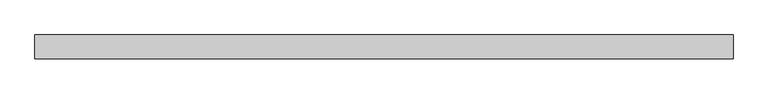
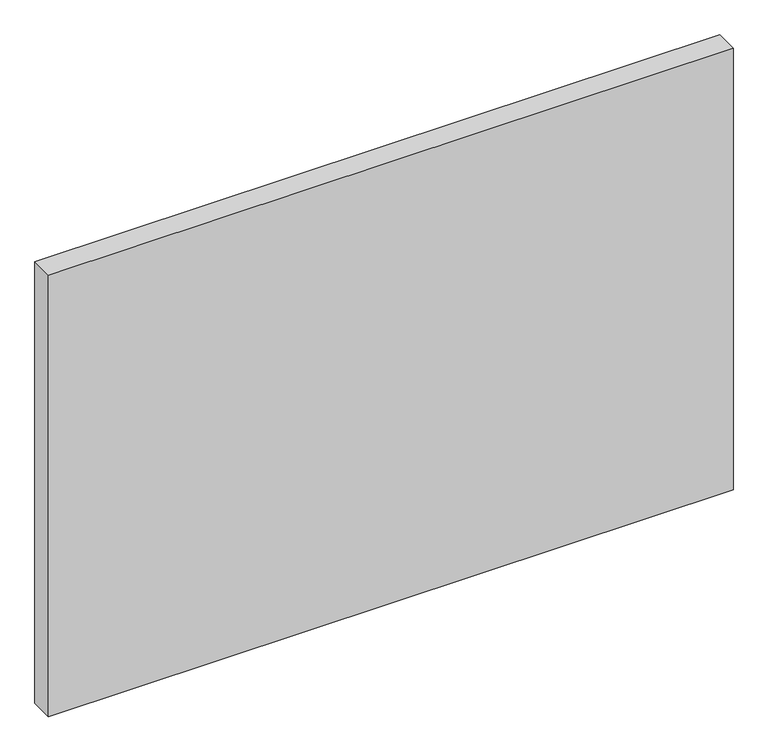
"""IFC4 building model written with IfcOpenShell, lengths in millimetres: plate geometry, Vitré."""

import ifcopenshell
import ifcopenshell.guid

model = None  # the IFC model being written
_history = None  # IfcOwnerHistory: only IFC2X3 demands one
_inside = {}  # id of a spatial element -> (the spatial element, [elements in it])
_under = {}  # id of a project, library or spatial element -> (it, [spatial elements below it])
_declared = {}  # id of a project -> (the project, [libraries it declares])
_typed = {}  # id of a type object -> (the type object, [elements of that type])
_made_of = {}  # id of a material, layer set ... -> (it, [elements and type objects made of it])


def new_model(schema):
    """Start an empty IFC model of exactly this schema.

    Asked for "IFC4X3", IfcOpenShell would pick the latest addendum, in which some entities
    have other attributes; the version numbers below select the first issue.
    IFC2X3 requires an IfcOwnerHistory on every rooted entity: one is made here for all.
    """
    global model, _history
    if schema == "IFC4X3":
        model = ifcopenshell.file(schema_version=(4, 3, 0, 0))
    else:
        model = ifcopenshell.file(schema=schema)
    _inside.clear()
    _under.clear()
    _declared.clear()
    _typed.clear()
    _made_of.clear()
    _history = None
    if model.schema == "IFC2X3":
        org = make("IfcOrganization", Name="unknown")
        user = make(
            "IfcPersonAndOrganization",
            ThePerson=make("IfcPerson", FamilyName="unknown"),
            TheOrganization=org,
        )
        app = make(
            "IfcApplication",
            ApplicationDeveloper=org,
            Version="unknown",
            ApplicationFullName="unknown",
            ApplicationIdentifier="unknown",
        )
        _history = make(
            "IfcOwnerHistory",
            OwningUser=user,
            OwningApplication=app,
            ChangeAction="ADDED",
            CreationDate=0,
        )
    return model


def make(cls, **values):
    """One entity of the class cls with the attributes given. An attribute that is None is left unset."""
    return model.create_entity(
        cls, **{name: value for name, value in values.items() if value is not None}
    )


def rooted(cls, **values):
    """An entity with a GlobalId (a new one), such as an element, a storey or a relation."""
    return make(cls, GlobalId=ifcopenshell.guid.new(), OwnerHistory=_history, **values)


def si_unit(unit_type, name, prefix=None):
    """IfcSIUnit, for example si_unit("LENGTHUNIT", "METRE", prefix="MILLI")."""
    return make("IfcSIUnit", UnitType=unit_type, Prefix=prefix, Name=name)


def assignment(units):
    """IfcUnitAssignment: the units of a project."""
    return None if units is None else make("IfcUnitAssignment", Units=units)


def point(xyz):
    """IfcCartesianPoint."""
    return None if xyz is None else make("IfcCartesianPoint", Coordinates=xyz)


def direction(xyz):
    """IfcDirection."""
    return None if xyz is None else make("IfcDirection", DirectionRatios=xyz)


def frame(location, z_axis=None, x_axis=None):
    """IfcAxis2Placement3D, a coordinate frame: its origin and axes. An axis left out is left unset."""
    return make(
        "IfcAxis2Placement3D",
        Location=point(location),
        Axis=direction(z_axis),
        RefDirection=direction(x_axis),
    )


def origin():
    """The frame at (0, 0, 0) with its axes left unset."""
    return frame((0.0, 0.0, 0.0))


def origin_with_axes():
    """The frame at (0, 0, 0) with the z axis (0, 0, 1) and the x axis (1, 0, 0) written out."""
    return frame((0.0, 0.0, 0.0), z_axis=(0.0, 0.0, 1.0), x_axis=(1.0, 0.0, 0.0))


def place(relative_to, where):
    """IfcLocalPlacement: puts the frame where relative to a parent placement (None: the world)."""
    return make(
        "IfcLocalPlacement", PlacementRelTo=relative_to, RelativePlacement=where
    )


def context(
    kind, dimensions, precision=None, world=None, true_north=None, identifier=None
):
    """IfcGeometricRepresentationContext, for example the 3D "Model" context."""
    return make(
        "IfcGeometricRepresentationContext",
        ContextIdentifier=identifier,
        ContextType=kind,
        CoordinateSpaceDimension=dimensions,
        Precision=precision,
        WorldCoordinateSystem=world,
        TrueNorth=true_north,
    )


def project(units=None, contexts=None):
    """IfcProject with its units and contexts."""
    return rooted(
        "IfcProject",
        Name="project",
        RepresentationContexts=contexts,
        UnitsInContext=assignment(units),
    )


def spatial(cls, under=None, at=None, **own):
    """A site, building, storey or space (cls), placed at a placement, below another one or the project."""
    s = rooted(cls, ObjectPlacement=at, **own)
    if under is not None:
        _under.setdefault(under.id(), (under, []))[1].append(s)
    return s


def polyline(points):
    """IfcPolyline through the points."""
    return make("IfcPolyline", Points=[point(p) for p in points])


def outline(outer, holes=None, kind="AREA"):
    """IfcArbitraryClosedProfileDef: a profile drawn as a closed curve; with holes, ...WithVoids."""
    if holes is None:
        return make("IfcArbitraryClosedProfileDef", ProfileType=kind, OuterCurve=outer)
    return make(
        "IfcArbitraryProfileDefWithVoids",
        ProfileType=kind,
        OuterCurve=outer,
        InnerCurves=holes,
    )


def extrude(swept, where, along, depth):
    """IfcExtrudedAreaSolid: the profile swept, set in the frame where, extruded along a direction by depth."""
    return make(
        "IfcExtrudedAreaSolid",
        SweptArea=swept,
        Position=where,
        ExtrudedDirection=direction(along),
        Depth=depth,
    )


def shape(context_of_items, identifier, shape_type, items):
    """IfcShapeRepresentation: the items that make up one representation, for example the "Body"."""
    return make(
        "IfcShapeRepresentation",
        ContextOfItems=context_of_items,
        RepresentationIdentifier=identifier,
        RepresentationType=shape_type,
        Items=items,
    )


def source(mapping_origin, context_of_items, identifier, shape_type, items):
    """IfcRepresentationMap: a shape defined once, which mapped items show again and again."""
    return make(
        "IfcRepresentationMap",
        MappingOrigin=mapping_origin,
        MappedRepresentation=shape(context_of_items, identifier, shape_type, items),
    )


def transform(
    local_origin,
    x_axis=None,
    y_axis=None,
    z_axis=None,
    scale=None,
    scale2=None,
    scale3=None,
    uniform=True,
):
    """IfcCartesianTransformationOperator3D, or its non-uniform kind. x_axis, y_axis, z_axis: its Axis1, 2, 3."""
    if uniform:
        return make(
            "IfcCartesianTransformationOperator3D",
            Axis1=direction(x_axis),
            Axis2=direction(y_axis),
            LocalOrigin=point(local_origin),
            Scale=scale,
            Axis3=direction(z_axis),
        )
    return make(
        "IfcCartesianTransformationOperator3DnonUniform",
        Axis1=direction(x_axis),
        Axis2=direction(y_axis),
        LocalOrigin=point(local_origin),
        Scale=scale,
        Axis3=direction(z_axis),
        Scale2=scale2,
        Scale3=scale3,
    )


def mapped(mapping_source, mapping_target):
    """IfcMappedItem: shows the shape of a source again, moved by a transform."""
    return make(
        "IfcMappedItem", MappingSource=mapping_source, MappingTarget=mapping_target
    )


def made_of(thing, what):
    """Note that an element or type object is made of a material, layer set ...; save() writes the relation."""
    if what is not None:
        _made_of.setdefault(what.id(), (what, []))[1].append(thing)
    return thing


def element(
    cls,
    number,
    at=None,
    inside=None,
    cuts=None,
    type_object=None,
    material=None,
    context=None,
    identifier="Body",
    shape_type=None,
    held_by="IfcProductDefinitionShape",
    body=None,
    shapes=None,
    **own,
):
    """One element of the class cls, such as IfcWall. Its Tag is "e" and its number.

    at: its placement. inside: the storey or other place that contains it. cuts: it is an
    opening in that element (IfcRelVoidsElement). A single representation is given by context,
    identifier, shape_type and body (its items); several are given by shapes. held_by: the class
    of the entity that holds the representations. save() writes the other relations.
    """
    e = rooted(cls, Tag="e%d" % number, ObjectPlacement=at, **own)
    if body is not None:
        shapes = [shape(context, identifier, shape_type, body)]
    if shapes is not None:
        e.Representation = make(held_by, Representations=shapes)
    if inside is not None:
        _inside.setdefault(inside.id(), (inside, []))[1].append(e)
    if cuts is not None:
        rooted(
            "IfcRelVoidsElement", RelatingBuildingElement=cuts, RelatedOpeningElement=e
        )
    if type_object is not None:
        _typed.setdefault(type_object.id(), (type_object, []))[1].append(e)
    return made_of(e, material)


def aggregate(whole, parts):
    """IfcRelAggregates: a whole, such as a stair, and the parts it consists of."""
    return rooted("IfcRelAggregates", RelatingObject=whole, RelatedObjects=parts)


def save(model, path):
    """Write the relations noted so far, then the file.

    IfcRelAggregates (storeys below a building ...), IfcRelContainedInSpatialStructure (elements
    in a storey), IfcRelDefinesByType, IfcRelAssociatesMaterial and IfcRelDeclares: one each for
    every whole, place, type object, material and project.
    """
    for whole, parts in _under.values():
        aggregate(whole, parts)
    for where, things in _inside.values():
        rooted(
            "IfcRelContainedInSpatialStructure",
            RelatedElements=things,
            RelatingStructure=where,
        )
    for kind, things in _typed.values():
        rooted("IfcRelDefinesByType", RelatedObjects=things, RelatingType=kind)
    for what, things in _made_of.values():
        rooted("IfcRelAssociatesMaterial", RelatedObjects=things, RelatingMaterial=what)
    for by, libraries in _declared.values():
        rooted("IfcRelDeclares", RelatingContext=by, RelatedDefinitions=libraries)
    model.write(path)


def plate_e469d913(model_context):
    return source(origin(), model_context, "Body", "SweptSolid", [
        extrude(outline(polyline([(-587.4991799, -20.0), (-587.4991799, 20.0), (587.4991799, 20.0), (587.4991799, -20.0), (-587.4991799, -20.0)])), origin_with_axes(), (0.0, 0.0, 1.0), 801.2351114),
    ])


if __name__ == "__main__":
    model = new_model("IFC4")
    model_context = context("Model", 3, world=origin())
    ifc_project = project(units=[si_unit("LENGTHUNIT", "METRE", prefix="MILLI")], contexts=[model_context])
    site = spatial("IfcSite", under=ifc_project)
    building = spatial("IfcBuilding", under=site)
    placement = place(None, origin())
    plate_shape = plate_e469d913(model_context)
    element("IfcPlate", 1, ObjectType="Vitré", at=placement, inside=building, context=model_context, shape_type="MappedRepresentation", body=[
        mapped(plate_shape, transform((0.0, 0.0, 0.0), x_axis=(1.0, 0.0, 0.0), y_axis=(0.0, 1.0, 0.0), z_axis=(0.0, 0.0, 1.0))),
    ])
    save(model, "model.ifc")
